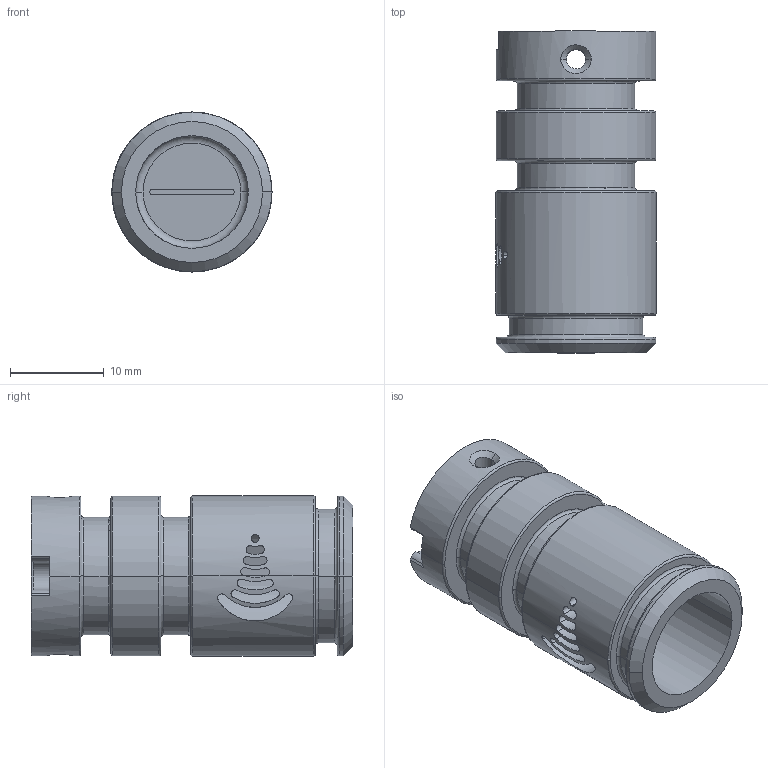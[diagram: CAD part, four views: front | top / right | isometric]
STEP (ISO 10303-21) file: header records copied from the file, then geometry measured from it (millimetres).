
FILE_DESCRIPTION((''),'2;1');
FILE_NAME('HS11691Y0','2026-01-09T20:59:22',('258472'),(''),'CREO PARAMETRIC BY PTC INC, 2024401','CREO PARAMETRIC BY PTC INC, 2024401','');
FILE_SCHEMA(('AUTOMOTIVE_DESIGN { 1 0 10303 214 1 1 1 1 }'));
Length unit declared in the file: millimetre
Products named in the file (1): HS11691Y0
Bounding box: 17.05 x 34.25 x 17.05 mm (x, y, z)
Volume: 4889.2 mm3; surface area: 3513.2 mm2
Topology: 1 solids, 1 shells, 107 faces, 367 edges, 271 vertices
Faces by surface type: cylinder 54, torus 26, plane 19, cone 4, bspline 4
Entity records: 11790 total; most frequent: CARTESIAN_POINT 7095, DIRECTION 706, ORIENTED_EDGE 706, PRESENTATION_STYLE_ASSIGNMENT 384, STYLED_ITEM 384, CURVE_STYLE 383, EDGE_CURVE 353, AXIS2_PLACEMENT_3D 299
